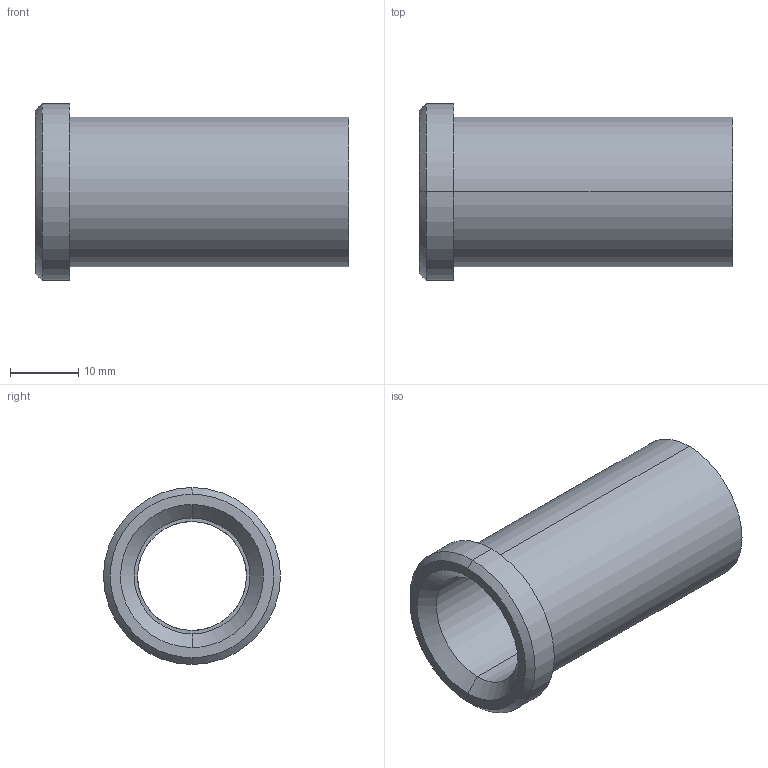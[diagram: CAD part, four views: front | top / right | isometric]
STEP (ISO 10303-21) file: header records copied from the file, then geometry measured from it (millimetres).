
FILE_DESCRIPTION(('CATIA V5 STEP Exchange'),'2;1');
FILE_NAME('C:\Users\Utente\Desktop\IO LAVORO\3D X SITO CF\X SITO\PLASTICA\353\353-16X46.stp','2021-05-04T18:17:54+00:00',('none'),('none'),'CATIA Version 5 Release 20 GA (IN-10)','CATIA V5 STEP AP203','none');
FILE_SCHEMA(('CONFIG_CONTROL_DESIGN'));
Length unit declared in the file: millimetre
Products named in the file (1): 353-16X46
Bounding box: 46 x 26 x 26 mm (x, y, z)
Volume: 8462.3 mm3; surface area: 6130.4 mm2
Topology: 1 solids, 1 shells, 18 faces, 58 edges, 44 vertices
Faces by surface type: cylinder 8, plane 4, cone 4, torus 2
Entity records: 840 total; most frequent: CARTESIAN_POINT 289, ORIENTED_EDGE 116, DIRECTION 82, EDGE_CURVE 58, AXIS2_PLACEMENT_3D 53, VERTEX_POINT 44, CIRCLE 34, EDGE_LOOP 22
